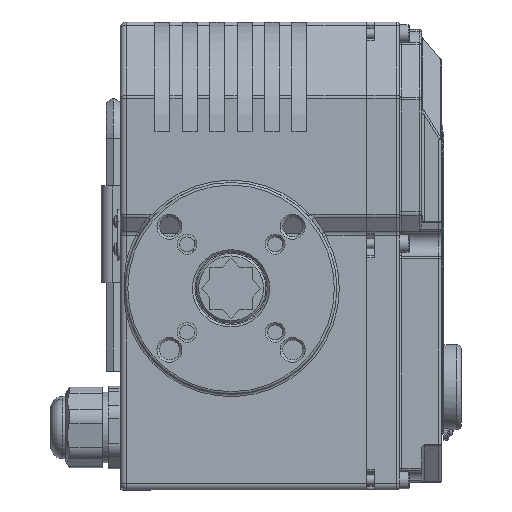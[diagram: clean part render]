
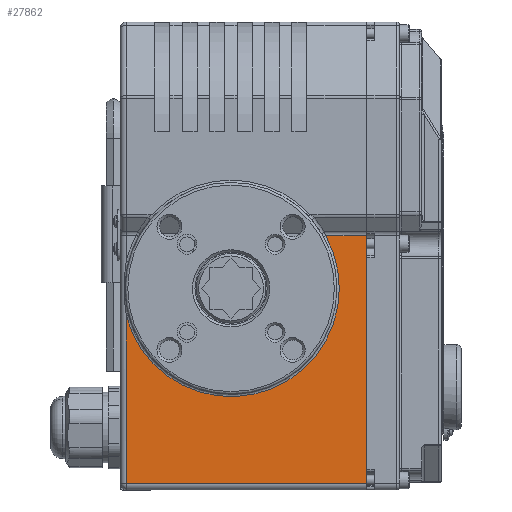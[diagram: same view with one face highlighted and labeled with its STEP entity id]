
A CAD part, front view. The second image highlights one B-rep face of the part: STEP entity #27862.
In plain terms, the highlighted planar face has unit normal (0, -1, 0).
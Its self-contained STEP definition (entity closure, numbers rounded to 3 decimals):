
#1268=PLANE('',#30068);
#3384=FACE_OUTER_BOUND('',#4982,.T.);
#4982=EDGE_LOOP('',(#23074,#23075,#23076,#23077,#23078));
#6995=LINE('',#49285,#9084);
#6997=LINE('',#49293,#9086);
#6999=LINE('',#49297,#9088);
#7000=LINE('',#49298,#9089);
#9084=VECTOR('',#35767,10.);
#9086=VECTOR('',#35777,10.);
#9088=VECTOR('',#35781,10.);
#9089=VECTOR('',#35782,10.);
#10305=CIRCLE('',#29954,43.5);
#12546=VERTEX_POINT('',#48553);
#12548=VERTEX_POINT('',#48573);
#12704=VERTEX_POINT('',#49282);
#12705=VERTEX_POINT('',#49284);
#12708=VERTEX_POINT('',#49296);
#16122=EDGE_CURVE('',#12548,#12546,#10305,.T.);
#16324=EDGE_CURVE('',#12704,#12705,#6995,.T.);
#16329=EDGE_CURVE('',#12546,#12704,#6997,.T.);
#16331=EDGE_CURVE('',#12708,#12548,#6999,.T.);
#16332=EDGE_CURVE('',#12705,#12708,#7000,.T.);
#23074=ORIENTED_EDGE('',*,*,#16122,.F.);
#23075=ORIENTED_EDGE('',*,*,#16331,.F.);
#23076=ORIENTED_EDGE('',*,*,#16332,.F.);
#23077=ORIENTED_EDGE('',*,*,#16324,.F.);
#23078=ORIENTED_EDGE('',*,*,#16329,.F.);
#27862=ADVANCED_FACE('',(#3384),#1268,.T.);
#29954=AXIS2_PLACEMENT_3D('',#48575,#35445,#35446);
#30068=AXIS2_PLACEMENT_3D('',#49295,#35779,#35780);
#35445=DIRECTION('center_axis',(0.,-1.,0.));
#35446=DIRECTION('ref_axis',(0.326,0.,-0.945));
#35767=DIRECTION('',(0.,0.,-1.));
#35777=DIRECTION('',(1.,0.,0.));
#35779=DIRECTION('center_axis',(0.,-1.,0.));
#35780=DIRECTION('ref_axis',(0.,0.,-1.));
#35781=DIRECTION('',(0.,0.,1.));
#35782=DIRECTION('',(-1.,0.,0.));
#48553=CARTESIAN_POINT('',(37.981,-40.,21.207));
#48573=CARTESIAN_POINT('',(-42.073,-40.,-11.049));
#48575=CARTESIAN_POINT('Origin',(0.,-40.,0.));
#49282=CARTESIAN_POINT('',(54.427,-40.,21.207));
#49284=CARTESIAN_POINT('',(54.427,-40.,-78.5));
#49285=CARTESIAN_POINT('',(54.427,-40.,22.009));
#49293=CARTESIAN_POINT('',(-44.573,-40.,21.207));
#49295=CARTESIAN_POINT('Origin',(-44.573,-40.,22.009));
#49296=CARTESIAN_POINT('',(-42.073,-40.,-78.5));
#49297=CARTESIAN_POINT('',(-42.073,-40.,17.504));
#49298=CARTESIAN_POINT('',(-44.573,-40.,-78.5));
